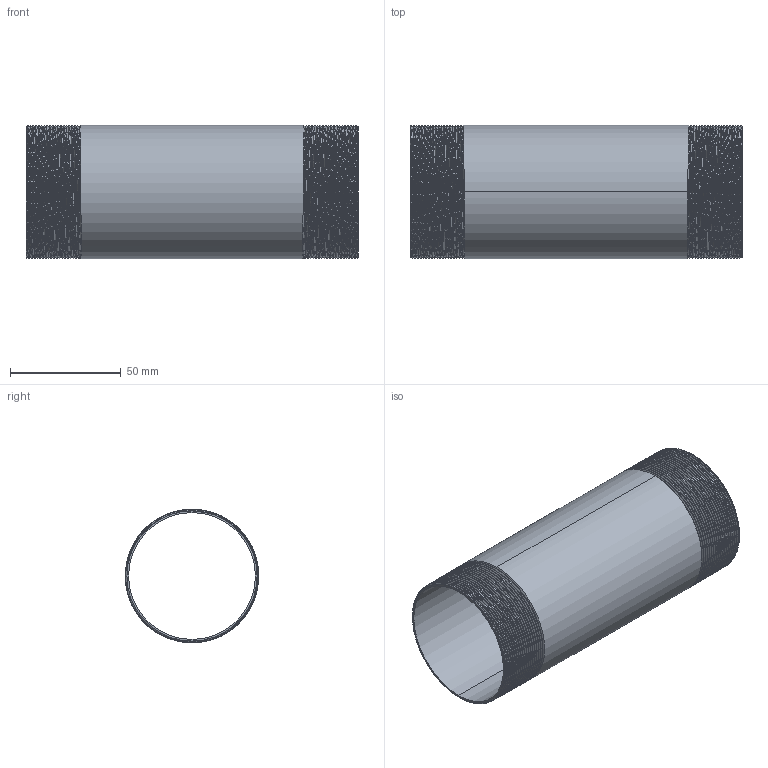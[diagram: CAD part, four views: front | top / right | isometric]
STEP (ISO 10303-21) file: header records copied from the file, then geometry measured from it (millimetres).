
FILE_DESCRIPTION (( 'STEP AP203' ), '1' );
FILE_NAME ('3D_R210_2x150_17185180.STEP', '2024-08-16T10:44:00', ( '' ), ( '' ), 'SwSTEP 2.0', 'SolidWorks 2024', '' );
FILE_SCHEMA (( 'CONFIG_CONTROL_DESIGN' ));
Length unit declared in the file: millimetre
Products named in the file (1): 3D_R210_2x150_17185180
Bounding box: 150 x 60.29 x 60.3 mm (x, y, z)
Volume: 37591.2 mm3; surface area: 60581.4 mm2
Topology: 1 solids, 1 shells, 98 faces, 280 edges, 184 vertices
Faces by surface type: cone 84, bspline 6, cylinder 4, plane 4
Entity records: 18215 total; most frequent: CARTESIAN_POINT 15939, ORIENTED_EDGE 560, DIRECTION 308, EDGE_CURVE 280, VERTEX_POINT 184, B_SPLINE_CURVE_WITH_KNOTS 164, AXIS2_PLACEMENT_3D 107, EDGE_LOOP 100
